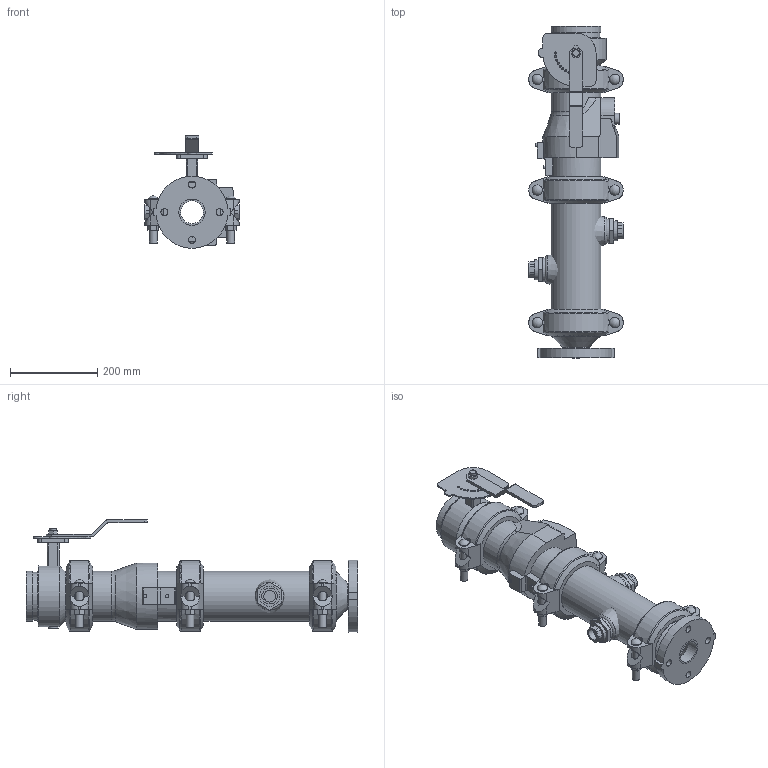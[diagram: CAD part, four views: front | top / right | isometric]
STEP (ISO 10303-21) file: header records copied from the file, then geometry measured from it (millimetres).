
FILE_DESCRIPTION(/* description */ ('VIC DVI PUMP DROP VERT S/390 (OGSxFLG)','CAx-IF Rec.Pracs.---Representation and Presentation of Product Manufacturing Information (PMI)---4.0---2014-10-13'),/* implementation_level */ '2;1');
FILE_NAME(/* name */ 'C:\Users\Vjadhav\AppData\Roaming\Autodesk\ApplicationPlugins\Back Up\Victaulic_IPS_Vertical DVI_PN10_Series 390 (OGSxFLG)\Victaulic_IPS_Vertical DVI_PN10_Series 390 (OGSxFLG)_04.0x02.0 (100x50).stp',/* time_stamp */ '2020-11-09T17:50:03+05:00',/* author */ ('Vjadhav'),/* organization */ ('Victaulic'),/* preprocessor_version */ 'ST-DEVELOPER v17.2',/* originating_system */ 'Autodesk Inventor 2019',/* authorisation */ '');
FILE_SCHEMA (('AP242_MANAGED_MODEL_BASED_3D_ENGINEERING_MIM_LF { 1 0 10303 442 1 1 4 }'));
Length unit declared in the file: inch
Products named in the file (8): 390-04.0x02.0; 741-02.0; 050-04.0x02.0; Pipe-04.0; 177N-04.0; 761-04.0; 716-04.0; 923-04.0x0.75
Assembly tree (10 placements, depth 2):
  390-04.0x02.0
    741-02.0
    050-04.0x02.0
    177N-04.0  x3
    Pipe-04.0
    761-04.0
    716-04.0
    923-04.0x0.75  x2
Bounding box: 215.9 x 762 x 257.25 mm (x, y, z)
Volume: 5786542.2 mm3; surface area: 1045869.7 mm2
Topology: 10 solids, 11 shells, 604 faces, 1619 edges, 1075 vertices
Faces by surface type: plane 355, cylinder 204, cone 20, torus 17, sphere 6, bspline 2
Full cylindrical faces by diameter (mm): 4.826 x10, 7.62 x2, 8.636 x4, 14.986 x2, 16.002 x4, 17.424 x6, 22.86 x1, 23.495 x6, 25.4 x1, 26.67 x2, 45.974 x4, 52.502 x1, 55.118 x1, 55.626 x2, 57.15 x1, 60.325 x3, 101.6 x3, 102.26 x3, 103.988 x1, 110.084 x7, 114.3 x19, 139.7 x1
Entity records: 12338 total; most frequent: CARTESIAN_POINT 2323, DIRECTION 2060, ORIENTED_EDGE 1894, EDGE_CURVE 947, AXIS2_PLACEMENT_3D 775, VERTEX_POINT 635, LINE 510, VECTOR 510
